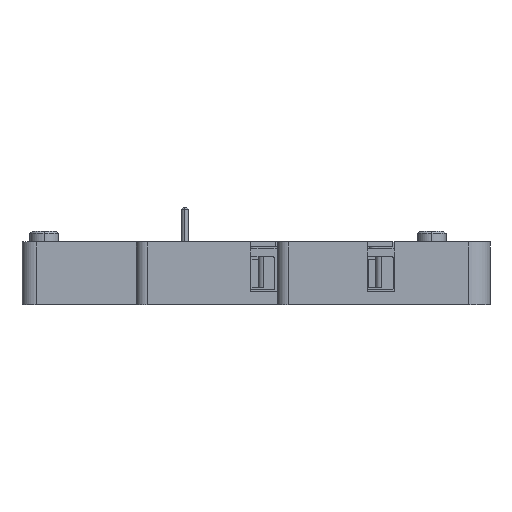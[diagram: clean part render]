
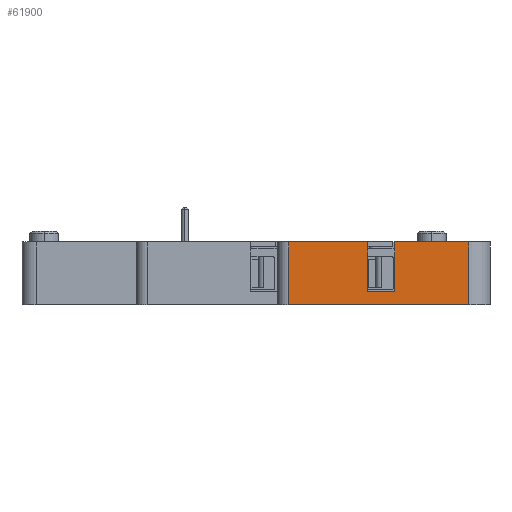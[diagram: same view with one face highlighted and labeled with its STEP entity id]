
A CAD part, left-side view. The second image highlights one B-rep face of the part: STEP entity #61900.
In plain terms, the highlighted planar face has unit normal (-1, 0, 0).
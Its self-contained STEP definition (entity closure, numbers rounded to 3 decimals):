
#3400=CARTESIAN_POINT('',(-45.,28.2,-8.8));
#3410=VERTEX_POINT('',#3400);
#3440=CARTESIAN_POINT('',(-45.,0.,-8.8));
#3450=DIRECTION('',(0.,1.,0.));
#3460=VECTOR('',#3450,1.);
#3470=LINE('',#3440,#3460);
#3480=CARTESIAN_POINT('',(-45.,3.,-8.8));
#3490=VERTEX_POINT('',#3480);
#3500=EDGE_CURVE('',#3490,#3410,#3470,.T.);
#28120=CARTESIAN_POINT('',(-45.,3.,0.));
#28130=DIRECTION('',(0.,0.,-1.));
#28140=VECTOR('',#28130,1.);
#28150=LINE('',#28120,#28140);
#28160=CARTESIAN_POINT('',(-45.,3.,0.));
#28170=VERTEX_POINT('',#28160);
#28180=EDGE_CURVE('',#28170,#3490,#28150,.T.);
#35750=CARTESIAN_POINT('',(-45.,28.2,0.));
#35760=VERTEX_POINT('',#35750);
#35990=CARTESIAN_POINT('',(-45.,17.1,0.));
#36000=VERTEX_POINT('',#35990);
#36030=CARTESIAN_POINT('',(-45.,0.,0.));
#36040=DIRECTION('',(0.,-1.,0.));
#36050=VECTOR('',#36040,1.);
#36060=LINE('',#36030,#36050);
#36070=EDGE_CURVE('',#35760,#36000,#36060,.T.);
#45460=CARTESIAN_POINT('',(-45.,0.,0.));
#45470=DIRECTION('',(0.,-1.,0.));
#45480=VECTOR('',#45470,1.);
#45490=LINE('',#45460,#45480);
#45500=CARTESIAN_POINT('',(-45.,13.3,0.));
#45510=VERTEX_POINT('',#45500);
#45520=EDGE_CURVE('',#45510,#28170,#45490,.T.);
#51540=CARTESIAN_POINT('',(-45.,0.,-6.9));
#51550=DIRECTION('',(0.,-1.,0.));
#51560=VECTOR('',#51550,1.);
#51570=LINE('',#51540,#51560);
#51580=CARTESIAN_POINT('',(-45.,17.1,-6.9));
#51590=VERTEX_POINT('',#51580);
#51600=CARTESIAN_POINT('',(-45.,13.3,-6.9));
#51610=VERTEX_POINT('',#51600);
#51620=EDGE_CURVE('',#51590,#51610,#51570,.T.);
#59490=CARTESIAN_POINT('',(-45.,28.2,0.));
#59500=DIRECTION('',(0.,0.,1.));
#59510=VECTOR('',#59500,1.);
#59520=LINE('',#59490,#59510);
#59530=EDGE_CURVE('',#3410,#35760,#59520,.T.);
#61580=CARTESIAN_POINT('',(-45.,13.3,0.));
#61590=DIRECTION('',(0.,0.,-1.));
#61600=VECTOR('',#61590,1.);
#61610=LINE('',#61580,#61600);
#61620=EDGE_CURVE('',#45510,#51610,#61610,.T.);
#61700=CARTESIAN_POINT('',(-45.,65.5,0.));
#61710=DIRECTION('',(-1.,0.,0.));
#61720=DIRECTION('',(0.,1.,0.));
#61730=AXIS2_PLACEMENT_3D('',#61700,#61710,#61720);
#61740=PLANE('',#61730);
#61750=ORIENTED_EDGE('',*,*,#51620,.F.);
#61760=ORIENTED_EDGE('',*,*,#61620,.T.);
#61770=ORIENTED_EDGE('',*,*,#45520,.F.);
#61780=ORIENTED_EDGE('',*,*,#28180,.F.);
#61790=ORIENTED_EDGE('',*,*,#3500,.F.);
#61800=ORIENTED_EDGE('',*,*,#59530,.F.);
#61810=ORIENTED_EDGE('',*,*,#36070,.F.);
#61820=CARTESIAN_POINT('',(-45.,17.1,0.));
#61830=DIRECTION('',(0.,0.,-1.));
#61840=VECTOR('',#61830,1.);
#61850=LINE('',#61820,#61840);
#61860=EDGE_CURVE('',#36000,#51590,#61850,.T.);
#61870=ORIENTED_EDGE('',*,*,#61860,.F.);
#61880=EDGE_LOOP('',(#61870,#61810,#61800,#61790,#61780,#61770,#61760,
#61750));
#61890=FACE_OUTER_BOUND('',#61880,.T.);
#61900=ADVANCED_FACE('',(#61890),#61740,.T.);
